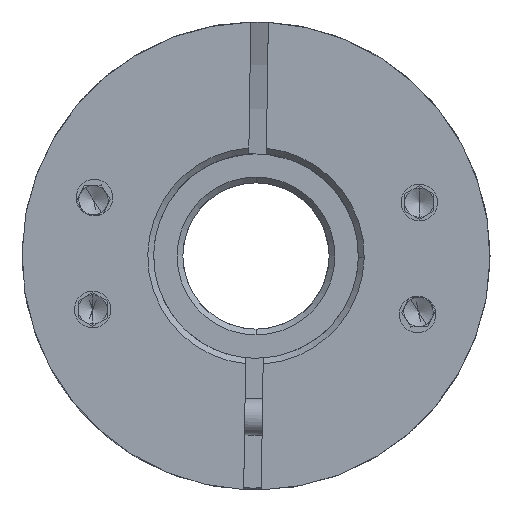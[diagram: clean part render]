
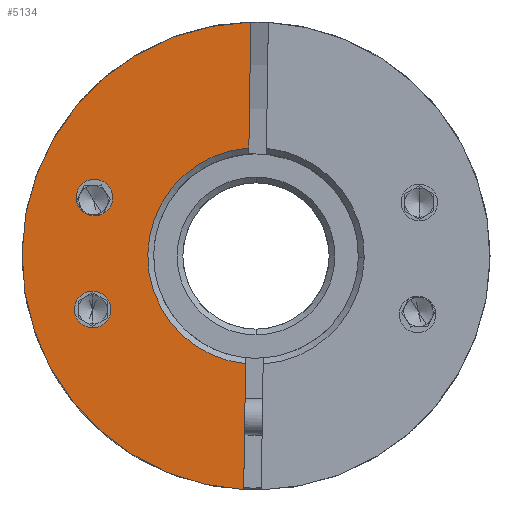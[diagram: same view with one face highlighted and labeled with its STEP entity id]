
A CAD part, front view. The second image highlights one B-rep face of the part: STEP entity #5134.
In plain terms, the highlighted planar face has unit normal (0, -1, 0).
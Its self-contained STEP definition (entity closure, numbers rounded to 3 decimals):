
#70 = FACE_BOUND ( 'NONE', #7525, .T. ) ;
#126 = EDGE_LOOP ( 'NONE', ( #24112, #22734, #15817, #24045, #23102 ) ) ;
#307 = CARTESIAN_POINT ( 'NONE',  ( -59.178, -19.411, 0. ) ) ;
#974 = EDGE_LOOP ( 'NONE', ( #20060, #20170 ) ) ;
#1172 = DIRECTION ( 'NONE',  ( 0., 1., 0. ) ) ;
#1289 = DIRECTION ( 'NONE',  ( 0., -1., 0. ) ) ;
#1492 = VERTEX_POINT ( 'NONE', #22528 ) ;
#1540 = EDGE_CURVE ( 'NONE', #10758, #2915, #10198, .T. ) ;
#2043 = AXIS2_PLACEMENT_3D ( 'NONE', #11721, #13614, #23028 ) ;
#2156 = CARTESIAN_POINT ( 'NONE',  ( -59.666, -19.411, 7.384 ) ) ;
#2254 = DIRECTION ( 'NONE',  ( 1., 0., -0.015 ) ) ;
#2583 = DIRECTION ( 'NONE',  ( 0., 1., 0. ) ) ;
#2685 = LINE ( 'NONE', #4511, #5337 ) ;
#2693 = EDGE_CURVE ( 'NONE', #18521, #19143, #22974, .T. ) ;
#2747 = DIRECTION ( 'NONE',  ( 0., 1., 0. ) ) ;
#2915 = VERTEX_POINT ( 'NONE', #2156 ) ;
#3657 = EDGE_CURVE ( 'NONE', #19382, #1492, #22927, .T. ) ;
#3750 = CARTESIAN_POINT ( 'NONE',  ( -59.89, -19.411, -7.366 ) ) ;
#3875 = FACE_BOUND ( 'NONE', #974, .T. ) ;
#3975 = ORIENTED_EDGE ( 'NONE', *, *, #13923, .T. ) ;
#4511 = CARTESIAN_POINT ( 'NONE',  ( -59.687, -19.411, 6.008 ) ) ;
#5134 = ADVANCED_FACE ( 'NONE', ( #6776, #70, #3875 ), #6141, .T. ) ;
#5281 = DIRECTION ( 'NONE',  ( 0., 1., 0. ) ) ;
#5337 = VECTOR ( 'NONE', #15521, 1000. ) ;
#5515 = DIRECTION ( 'NONE',  ( 1., 0., -0.015 ) ) ;
#6141 = PLANE ( 'NONE',  #2043 ) ;
#6180 = VERTEX_POINT ( 'NONE', #18094 ) ;
#6776 = FACE_OUTER_BOUND ( 'NONE', #126, .T. ) ;
#7247 = AXIS2_PLACEMENT_3D ( 'NONE', #10935, #10850, #11105 ) ;
#7525 = EDGE_LOOP ( 'NONE', ( #21771, #3975 ) ) ;
#7581 = CARTESIAN_POINT ( 'NONE',  ( -71.595, -19.411, -3.637 ) ) ;
#7930 = VERTEX_POINT ( 'NONE', #21172 ) ;
#8275 = CARTESIAN_POINT ( 'NONE',  ( -70.229, -19.411, 3.994 ) ) ;
#9844 = AXIS2_PLACEMENT_3D ( 'NONE', #16495, #5281, #5515 ) ;
#10105 = DIRECTION ( 'NONE',  ( 1., 0., -0.015 ) ) ;
#10198 = CIRCLE ( 'NONE', #18759, 7.4 ) ;
#10462 = CARTESIAN_POINT ( 'NONE',  ( -70.229, -19.411, 3.994 ) ) ;
#10758 = VERTEX_POINT ( 'NONE', #3750 ) ;
#10850 = DIRECTION ( 'NONE',  ( 0., 1., 0. ) ) ;
#10935 = CARTESIAN_POINT ( 'NONE',  ( -70.345, -19.411, -3.656 ) ) ;
#11012 = CARTESIAN_POINT ( 'NONE',  ( -59.178, -19.411, 0. ) ) ;
#11105 = DIRECTION ( 'NONE',  ( 1., 0., -0.015 ) ) ;
#11344 = AXIS2_PLACEMENT_3D ( 'NONE', #10462, #1172, #21731 ) ;
#11682 = DIRECTION ( 'NONE',  ( 0., -1., 0. ) ) ;
#11721 = CARTESIAN_POINT ( 'NONE',  ( -59.178, -19.411, 0. ) ) ;
#11842 = CARTESIAN_POINT ( 'NONE',  ( -75.176, -19.411, 0.243 ) ) ;
#12660 = AXIS2_PLACEMENT_3D ( 'NONE', #11012, #1289, #14365 ) ;
#13311 = CIRCLE ( 'NONE', #19554, 16. ) ;
#13536 = AXIS2_PLACEMENT_3D ( 'NONE', #8275, #2583, #15891 ) ;
#13614 = DIRECTION ( 'NONE',  ( 0., -1., 0. ) ) ;
#13923 = EDGE_CURVE ( 'NONE', #6180, #7930, #22093, .T. ) ;
#14290 = EDGE_CURVE ( 'NONE', #7930, #6180, #18322, .T. ) ;
#14325 = CIRCLE ( 'NONE', #7247, 1.25 ) ;
#14365 = DIRECTION ( 'NONE',  ( 1., 0., -0.015 ) ) ;
#14610 = CARTESIAN_POINT ( 'NONE',  ( -60.021, -19.411, -15.978 ) ) ;
#15443 = EDGE_CURVE ( 'NONE', #1492, #19382, #14325, .T. ) ;
#15521 = DIRECTION ( 'NONE',  ( -0.015, 0., -1. ) ) ;
#15817 = ORIENTED_EDGE ( 'NONE', *, *, #20423, .F. ) ;
#15891 = DIRECTION ( 'NONE',  ( 1., 0., -0.015 ) ) ;
#16495 = CARTESIAN_POINT ( 'NONE',  ( -70.345, -19.411, -3.656 ) ) ;
#16630 = CARTESIAN_POINT ( 'NONE',  ( -59.687, -19.411, 6.008 ) ) ;
#17587 = CARTESIAN_POINT ( 'NONE',  ( -59.178, -19.411, 0. ) ) ;
#18094 = CARTESIAN_POINT ( 'NONE',  ( -68.979, -19.411, 3.975 ) ) ;
#18322 = CIRCLE ( 'NONE', #11344, 1.25 ) ;
#18521 = VERTEX_POINT ( 'NONE', #11842 ) ;
#18759 = AXIS2_PLACEMENT_3D ( 'NONE', #17587, #2747, #10105 ) ;
#18973 = DIRECTION ( 'NONE',  ( -0.015, 0., -1. ) ) ;
#19143 = VERTEX_POINT ( 'NONE', #14610 ) ;
#19382 = VERTEX_POINT ( 'NONE', #7581 ) ;
#19502 = CARTESIAN_POINT ( 'NONE',  ( -59.535, -19.411, 15.996 ) ) ;
#19554 = AXIS2_PLACEMENT_3D ( 'NONE', #307, #11682, #2254 ) ;
#19912 = EDGE_CURVE ( 'NONE', #10758, #19143, #2685, .T. ) ;
#20060 = ORIENTED_EDGE ( 'NONE', *, *, #3657, .T. ) ;
#20170 = ORIENTED_EDGE ( 'NONE', *, *, #15443, .T. ) ;
#20423 = EDGE_CURVE ( 'NONE', #21818, #2915, #22845, .T. ) ;
#21172 = CARTESIAN_POINT ( 'NONE',  ( -71.479, -19.411, 4.013 ) ) ;
#21395 = VECTOR ( 'NONE', #18973, 1000. ) ;
#21731 = DIRECTION ( 'NONE',  ( 1., 0., -0.015 ) ) ;
#21771 = ORIENTED_EDGE ( 'NONE', *, *, #14290, .T. ) ;
#21818 = VERTEX_POINT ( 'NONE', #19502 ) ;
#22093 = CIRCLE ( 'NONE', #13536, 1.25 ) ;
#22528 = CARTESIAN_POINT ( 'NONE',  ( -69.095, -19.411, -3.675 ) ) ;
#22734 = ORIENTED_EDGE ( 'NONE', *, *, #1540, .T. ) ;
#22845 = LINE ( 'NONE', #16630, #21395 ) ;
#22927 = CIRCLE ( 'NONE', #9844, 1.25 ) ;
#22974 = CIRCLE ( 'NONE', #12660, 16. ) ;
#23028 = DIRECTION ( 'NONE',  ( 1., 0., -0.015 ) ) ;
#23102 = ORIENTED_EDGE ( 'NONE', *, *, #2693, .T. ) ;
#23390 = EDGE_CURVE ( 'NONE', #21818, #18521, #13311, .T. ) ;
#24045 = ORIENTED_EDGE ( 'NONE', *, *, #23390, .T. ) ;
#24112 = ORIENTED_EDGE ( 'NONE', *, *, #19912, .F. ) ;
